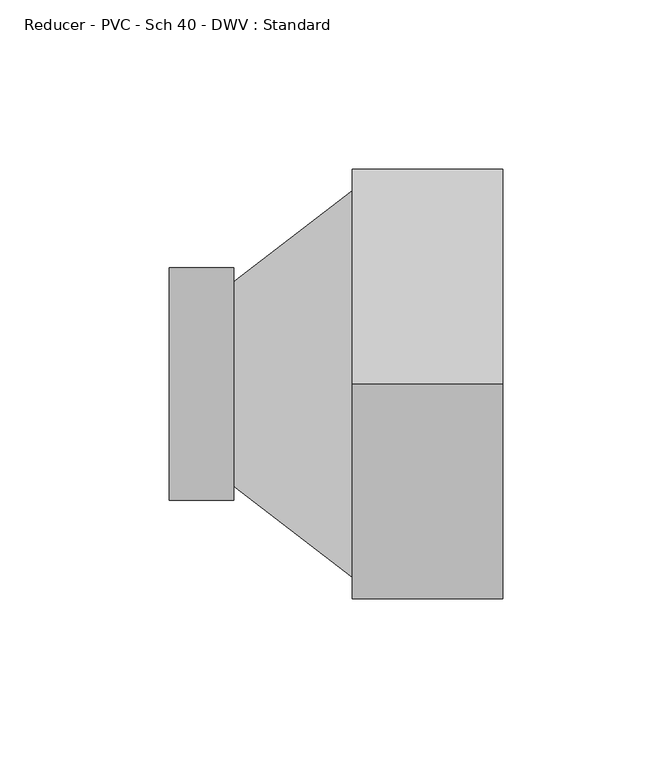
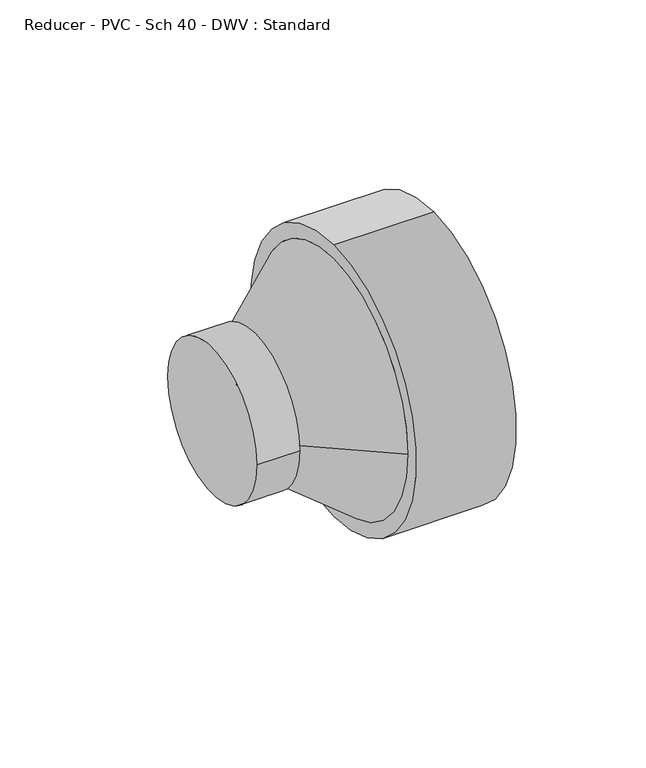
"""IFC4 building model written with IfcOpenShell, lengths in millimetres: pipe fitting geometry, Reducer - PVC - Sch 40 - DWV : Standard."""

import ifcopenshell
import ifcopenshell.guid

model = None  # the IFC model being written
_history = None  # IfcOwnerHistory: only IFC2X3 demands one
_inside = {}  # id of a spatial element -> (the spatial element, [elements in it])
_under = {}  # id of a project, library or spatial element -> (it, [spatial elements below it])
_declared = {}  # id of a project -> (the project, [libraries it declares])
_typed = {}  # id of a type object -> (the type object, [elements of that type])
_made_of = {}  # id of a material, layer set ... -> (it, [elements and type objects made of it])


def new_model(schema):
    """Start an empty IFC model of exactly this schema.

    Asked for "IFC4X3", IfcOpenShell would pick the latest addendum, in which some entities
    have other attributes; the version numbers below select the first issue.
    IFC2X3 requires an IfcOwnerHistory on every rooted entity: one is made here for all.
    """
    global model, _history
    if schema == "IFC4X3":
        model = ifcopenshell.file(schema_version=(4, 3, 0, 0))
    else:
        model = ifcopenshell.file(schema=schema)
    _inside.clear()
    _under.clear()
    _declared.clear()
    _typed.clear()
    _made_of.clear()
    _history = None
    if model.schema == "IFC2X3":
        org = make("IfcOrganization", Name="unknown")
        user = make(
            "IfcPersonAndOrganization",
            ThePerson=make("IfcPerson", FamilyName="unknown"),
            TheOrganization=org,
        )
        app = make(
            "IfcApplication",
            ApplicationDeveloper=org,
            Version="unknown",
            ApplicationFullName="unknown",
            ApplicationIdentifier="unknown",
        )
        _history = make(
            "IfcOwnerHistory",
            OwningUser=user,
            OwningApplication=app,
            ChangeAction="ADDED",
            CreationDate=0,
        )
    return model


def make(cls, **values):
    """One entity of the class cls with the attributes given. An attribute that is None is left unset."""
    return model.create_entity(
        cls, **{name: value for name, value in values.items() if value is not None}
    )


def rooted(cls, **values):
    """An entity with a GlobalId (a new one), such as an element, a storey or a relation."""
    return make(cls, GlobalId=ifcopenshell.guid.new(), OwnerHistory=_history, **values)


def si_unit(unit_type, name, prefix=None):
    """IfcSIUnit, for example si_unit("LENGTHUNIT", "METRE", prefix="MILLI")."""
    return make("IfcSIUnit", UnitType=unit_type, Prefix=prefix, Name=name)


def assignment(units):
    """IfcUnitAssignment: the units of a project."""
    return None if units is None else make("IfcUnitAssignment", Units=units)


def point(xyz):
    """IfcCartesianPoint."""
    return None if xyz is None else make("IfcCartesianPoint", Coordinates=xyz)


def direction(xyz):
    """IfcDirection."""
    return None if xyz is None else make("IfcDirection", DirectionRatios=xyz)


def frame(location, z_axis=None, x_axis=None):
    """IfcAxis2Placement3D, a coordinate frame: its origin and axes. An axis left out is left unset."""
    return make(
        "IfcAxis2Placement3D",
        Location=point(location),
        Axis=direction(z_axis),
        RefDirection=direction(x_axis),
    )


def origin():
    """The frame at (0, 0, 0) with its axes left unset."""
    return frame((0.0, 0.0, 0.0))


def place(relative_to, where):
    """IfcLocalPlacement: puts the frame where relative to a parent placement (None: the world)."""
    return make(
        "IfcLocalPlacement", PlacementRelTo=relative_to, RelativePlacement=where
    )


def context(
    kind, dimensions, precision=None, world=None, true_north=None, identifier=None
):
    """IfcGeometricRepresentationContext, for example the 3D "Model" context."""
    return make(
        "IfcGeometricRepresentationContext",
        ContextIdentifier=identifier,
        ContextType=kind,
        CoordinateSpaceDimension=dimensions,
        Precision=precision,
        WorldCoordinateSystem=world,
        TrueNorth=true_north,
    )


def project(units=None, contexts=None):
    """IfcProject with its units and contexts."""
    return rooted(
        "IfcProject",
        Name="project",
        RepresentationContexts=contexts,
        UnitsInContext=assignment(units),
    )


def spatial(cls, under=None, at=None, **own):
    """A site, building, storey or space (cls), placed at a placement, below another one or the project."""
    s = rooted(cls, ObjectPlacement=at, **own)
    if under is not None:
        _under.setdefault(under.id(), (under, []))[1].append(s)
    return s


def polyline(points):
    """IfcPolyline through the points."""
    return make("IfcPolyline", Points=[point(p) for p in points])


def circle_curve(where, radius):
    """IfcCircle in the frame where."""
    return make("IfcCircle", Position=where, Radius=radius)


def shape(context_of_items, identifier, shape_type, items):
    """IfcShapeRepresentation: the items that make up one representation, for example the "Body"."""
    return make(
        "IfcShapeRepresentation",
        ContextOfItems=context_of_items,
        RepresentationIdentifier=identifier,
        RepresentationType=shape_type,
        Items=items,
    )


def source(mapping_origin, context_of_items, identifier, shape_type, items):
    """IfcRepresentationMap: a shape defined once, which mapped items show again and again."""
    return make(
        "IfcRepresentationMap",
        MappingOrigin=mapping_origin,
        MappedRepresentation=shape(context_of_items, identifier, shape_type, items),
    )


def transform(
    local_origin,
    x_axis=None,
    y_axis=None,
    z_axis=None,
    scale=None,
    scale2=None,
    scale3=None,
    uniform=True,
):
    """IfcCartesianTransformationOperator3D, or its non-uniform kind. x_axis, y_axis, z_axis: its Axis1, 2, 3."""
    if uniform:
        return make(
            "IfcCartesianTransformationOperator3D",
            Axis1=direction(x_axis),
            Axis2=direction(y_axis),
            LocalOrigin=point(local_origin),
            Scale=scale,
            Axis3=direction(z_axis),
        )
    return make(
        "IfcCartesianTransformationOperator3DnonUniform",
        Axis1=direction(x_axis),
        Axis2=direction(y_axis),
        LocalOrigin=point(local_origin),
        Scale=scale,
        Axis3=direction(z_axis),
        Scale2=scale2,
        Scale3=scale3,
    )


def mapped(mapping_source, mapping_target):
    """IfcMappedItem: shows the shape of a source again, moved by a transform."""
    return make(
        "IfcMappedItem", MappingSource=mapping_source, MappingTarget=mapping_target
    )


def made_of(thing, what):
    """Note that an element or type object is made of a material, layer set ...; save() writes the relation."""
    if what is not None:
        _made_of.setdefault(what.id(), (what, []))[1].append(thing)
    return thing


def element(
    cls,
    number,
    at=None,
    inside=None,
    cuts=None,
    type_object=None,
    material=None,
    context=None,
    identifier="Body",
    shape_type=None,
    held_by="IfcProductDefinitionShape",
    body=None,
    shapes=None,
    **own,
):
    """One element of the class cls, such as IfcWall. Its Tag is "e" and its number.

    at: its placement. inside: the storey or other place that contains it. cuts: it is an
    opening in that element (IfcRelVoidsElement). A single representation is given by context,
    identifier, shape_type and body (its items); several are given by shapes. held_by: the class
    of the entity that holds the representations. save() writes the other relations.
    """
    e = rooted(cls, Tag="e%d" % number, ObjectPlacement=at, **own)
    if body is not None:
        shapes = [shape(context, identifier, shape_type, body)]
    if shapes is not None:
        e.Representation = make(held_by, Representations=shapes)
    if inside is not None:
        _inside.setdefault(inside.id(), (inside, []))[1].append(e)
    if cuts is not None:
        rooted(
            "IfcRelVoidsElement", RelatingBuildingElement=cuts, RelatedOpeningElement=e
        )
    if type_object is not None:
        _typed.setdefault(type_object.id(), (type_object, []))[1].append(e)
    return made_of(e, material)


def aggregate(whole, parts):
    """IfcRelAggregates: a whole, such as a stair, and the parts it consists of."""
    return rooted("IfcRelAggregates", RelatingObject=whole, RelatedObjects=parts)


def save(model, path):
    """Write the relations noted so far, then the file.

    IfcRelAggregates (storeys below a building ...), IfcRelContainedInSpatialStructure (elements
    in a storey), IfcRelDefinesByType, IfcRelAssociatesMaterial and IfcRelDeclares: one each for
    every whole, place, type object, material and project.
    """
    for whole, parts in _under.values():
        aggregate(whole, parts)
    for where, things in _inside.values():
        rooted(
            "IfcRelContainedInSpatialStructure",
            RelatedElements=things,
            RelatingStructure=where,
        )
    for kind, things in _typed.values():
        rooted("IfcRelDefinesByType", RelatedObjects=things, RelatingType=kind)
    for what, things in _made_of.values():
        rooted("IfcRelAssociatesMaterial", RelatedObjects=things, RelatingMaterial=what)
    for by, libraries in _declared.values():
        rooted("IfcRelDeclares", RelatingContext=by, RelatedDefinitions=libraries)
    model.write(path)


def plane_surface(at):
    """IfcPlane: the flat surface through the origin of the frame at, square to its z axis."""
    return make("IfcPlane", Position=at)


def cylinder_surface(at, radius):
    """IfcCylindricalSurface: all points at the distance radius from the z axis of the frame at."""
    return make("IfcCylindricalSurface", Position=at, Radius=radius)


def revolved_surface(curve, axis_point, axis_direction):
    """IfcSurfaceOfRevolution: the curve turned about the line through axis_point along axis_direction."""
    return make(
        "IfcSurfaceOfRevolution",
        SweptCurve=make("IfcArbitraryOpenProfileDef", ProfileType="CURVE", Curve=curve),
        AxisPosition=make("IfcAxis1Placement", Location=point(axis_point), Axis=direction(axis_direction)),
    )


def advanced_brep(points, edges, surfaces, faces):
    """IfcAdvancedBrep: a solid bounded by faces that lie on surfaces and meet in shared edges.

    An edge is (start, end): straight between two places in points (the first is 0);
    or (start, end, curve); or (start, end, curve, False) where it runs against its curve.
    A face is (place in surfaces, loops), or (place, loops, False) where it looks against
    its surface's normal. A loop lists edges by number (the first is 1), with a minus sign
    where the edge is run from its end to its start. The first loop is the outer one.
    """
    corners = [point(p) for p in points]
    vertices = [make("IfcVertexPoint", VertexGeometry=c) for c in corners]
    made = []
    for start, end, *more in edges:
        made.append(
            make(
                "IfcEdgeCurve",
                EdgeStart=vertices[start],
                EdgeEnd=vertices[end],
                EdgeGeometry=more[0] if more else make("IfcPolyline", Points=[corners[start], corners[end]]),
                SameSense=more[1] if len(more) > 1 else True,
            )
        )
    hull = []
    for where, loops, *sense in faces:
        bounds = []
        for j, loop in enumerate(loops):
            ring = [make("IfcOrientedEdge", EdgeElement=made[abs(k) - 1], Orientation=k > 0) for k in loop]
            bounds.append(
                make(
                    "IfcFaceOuterBound" if j == 0 else "IfcFaceBound",
                    Bound=make("IfcEdgeLoop", EdgeList=ring),
                    Orientation=True,
                )
            )
        hull.append(make("IfcAdvancedFace", Bounds=bounds, FaceSurface=surfaces[where], SameSense=sense[0] if sense else True))
    return make("IfcAdvancedBrep", Outer=make("IfcClosedShell", CfsFaces=hull))


def reducer_pvc_sch_40_dwv_standard_0cd29215(model_context):
    return source(origin(), model_context, "Body", "AdvancedBrep", [
        advanced_brep(
        [(0.0, -34.3154, 0.0), (0.0, 34.3154, 0.0), (19.05, -34.3154, 0.0), (19.05, 34.3154, 0.0), (19.05, 30.1625, 0.0), (19.05, -30.1625, 0.0), (53.975, 57.15, 0.0), (53.975, -57.15, 0.0), (53.975, 0.0, 63.754), (53.975, 0.0, -63.754), (98.425, 0.0, 63.754), (98.425, 0.0, -63.754)],
        [
            (0, 1, circle_curve(frame((0.0, 0.0, 0.0), z_axis=(-1.0, 0.0, 0.0), x_axis=(0.0, 1.0, 0.0)), 34.3154)),
            (1, 0, circle_curve(frame((0.0, 0.0, 0.0), z_axis=(-1.0, 0.0, 0.0), x_axis=(0.0, 1.0, 0.0)), 34.3154)),
            (2, 3, circle_curve(frame((19.05, 0.0, 0.0), z_axis=(1.0, 0.0, 0.0), x_axis=(0.0, 1.0, 0.0)), 34.3154)),
            (3, 2, circle_curve(frame((19.05, 0.0, 0.0), z_axis=(1.0, 0.0, 0.0), x_axis=(0.0, 1.0, 0.0)), 34.3154)),
            (4, 5, circle_curve(frame((19.05, 0.0, 0.0), z_axis=(-1.0, 0.0, 0.0), x_axis=(0.0, -1.0, 0.0)), 30.1625)),
            (5, 4, circle_curve(frame((19.05, 0.0, 0.0), z_axis=(-1.0, 0.0, 0.0), x_axis=(0.0, 1.0, 0.0)), 30.1625)),
            (0, 2),
            (3, 1),
            (4, 6),
            (6, 7, circle_curve(frame((53.975, 0.0, 0.0), z_axis=(-1.0, 0.0, 0.0), x_axis=(0.0, -1.0, 0.0)), 57.15)),
            (7, 5),
            (7, 6, circle_curve(frame((53.975, 0.0, 0.0), z_axis=(-1.0, 0.0, 0.0), x_axis=(0.0, 1.0, 0.0)), 57.15)),
            (8, 9, circle_curve(frame((53.975, 0.0, 0.0), z_axis=(-1.0, 0.0, 0.0), x_axis=(0.0, 0.0, -1.0)), 63.754)),
            (9, 8, circle_curve(frame((53.975, 0.0, 0.0), z_axis=(-1.0, 0.0, 0.0), x_axis=(0.0, 0.0, -1.0)), 63.754)),
            (10, 11, circle_curve(frame((98.425, 0.0, 0.0), z_axis=(1.0, 0.0, 0.0), x_axis=(0.0, 0.0, -1.0)), 63.754)),
            (11, 10, circle_curve(frame((98.425, 0.0, 0.0), z_axis=(1.0, 0.0, 0.0), x_axis=(0.0, 0.0, -1.0)), 63.754)),
            (8, 10),
            (11, 9),
        ],
        [
            plane_surface(frame((0.0, 0.0, 0.0), z_axis=(-1.0, 0.0, 0.0), x_axis=(0.0, 0.0, 1.0))),
            plane_surface(frame((19.05, 0.0, 0.0), z_axis=(1.0, 0.0, 0.0), x_axis=(0.0, 0.0, 1.0))),
            cylinder_surface(frame((0.0, 0.0, 0.0), z_axis=(-1.0, 0.0, 0.0), x_axis=(0.0, 1.0, 0.0)), 34.3154),
            revolved_surface(polyline([(19.049999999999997, 30.162499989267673, 0.0), (53.974999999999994, 57.15, 0.0)]), (-19.9838235, 0.0, 0.0), (1.0, 0.0, 0.0)),
            plane_surface(frame((53.975, 0.0, 0.0), z_axis=(-1.0, 0.0, 0.0), x_axis=(0.0, 1.0, 0.0))),
            plane_surface(frame((98.425, 0.0, 0.0), z_axis=(1.0, 0.0, 0.0), x_axis=(0.0, 1.0, 0.0))),
            cylinder_surface(frame((53.975, 0.0, 0.0), z_axis=(-1.0, 0.0, 0.0), x_axis=(0.0, 0.0, -1.0)), 63.754),
        ],
        [
            (0, [[1, 2]]),
            (1, [[3, 4], [5, 6]]),
            (2, [[-1, 7, -4, 8]]),
            (2, [[-2, -8, -3, -7]]),
            (3, [[9, 10, 11, -5]]),
            (3, [[-9, -6, -11, 12]]),
            (4, [[13, 14], [-10, -12]]),
            (5, [[15, 16]]),
            (6, [[-13, 17, -16, 18]]),
            (6, [[-14, -18, -15, -17]]),
        ],
    ),
    ])


if __name__ == "__main__":
    model = new_model("IFC4")
    model_context = context("Model", 3, world=origin())
    ifc_project = project(units=[si_unit("LENGTHUNIT", "METRE", prefix="MILLI")], contexts=[model_context])
    site = spatial("IfcSite", under=ifc_project)
    building = spatial("IfcBuilding", under=site)
    placement = place(None, origin())
    reducer_pvc_sch_40_dwv_standard_shape = reducer_pvc_sch_40_dwv_standard_0cd29215(model_context)
    element("IfcPipeFitting", 1, ObjectType="Reducer - PVC - Sch 40 - DWV : Standard", at=placement, inside=building, context=model_context, shape_type="MappedRepresentation", body=[
        mapped(reducer_pvc_sch_40_dwv_standard_shape, transform((0.0, 0.0, 0.0), x_axis=(1.0, 0.0, 0.0), y_axis=(0.0, 1.0, 0.0), z_axis=(0.0, 0.0, 1.0))),
    ])
    save(model, "model.ifc")
